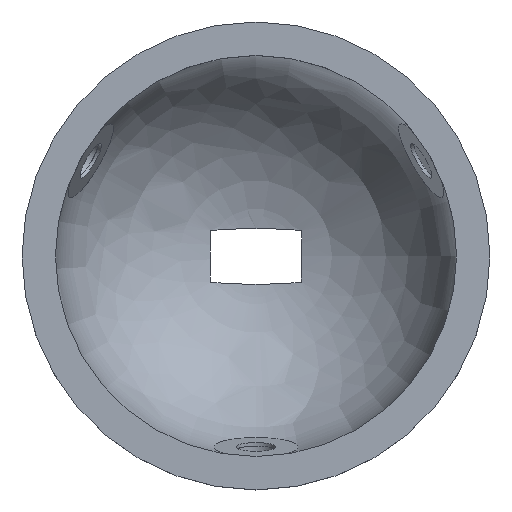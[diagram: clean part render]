
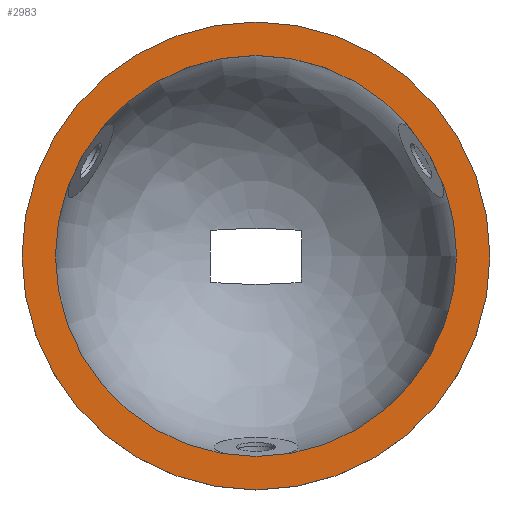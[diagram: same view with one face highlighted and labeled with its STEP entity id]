
A CAD part, top view. The second image highlights one B-rep face of the part: STEP entity #2983.
In plain terms, the highlighted planar face has unit normal (0, 0, 1).
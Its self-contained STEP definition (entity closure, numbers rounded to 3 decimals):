
#652 = CYLINDRICAL_SURFACE('',#653,18.);
#653 = AXIS2_PLACEMENT_3D('',#654,#655,#656);
#654 = CARTESIAN_POINT('',(0.,0.,-4.));
#655 = DIRECTION('',(0.,0.,1.));
#656 = DIRECTION('',(1.,0.,-0.));
#2230 = VERTEX_POINT('',#2231);
#2231 = CARTESIAN_POINT('',(18.,0.,0.));
#2252 = EDGE_CURVE('',#2230,#2230,#2253,.T.);
#2253 = SURFACE_CURVE('',#2254,(#2259,#2266),.PCURVE_S1.);
#2254 = CIRCLE('',#2255,18.);
#2255 = AXIS2_PLACEMENT_3D('',#2256,#2257,#2258);
#2256 = CARTESIAN_POINT('',(0.,0.,0.));
#2257 = DIRECTION('',(0.,0.,1.));
#2258 = DIRECTION('',(1.,0.,-0.));
#2259 = PCURVE('',#652,#2260);
#2260 = DEFINITIONAL_REPRESENTATION('',(#2261),#2265);
#2261 = LINE('',#2262,#2263);
#2262 = CARTESIAN_POINT('',(0.,4.));
#2263 = VECTOR('',#2264,1.);
#2264 = DIRECTION('',(1.,0.));
#2265 = ( GEOMETRIC_REPRESENTATION_CONTEXT(2) 
PARAMETRIC_REPRESENTATION_CONTEXT() REPRESENTATION_CONTEXT('2D SPACE',''
  ) );
#2266 = PCURVE('',#2267,#2272);
#2267 = PLANE('',#2268);
#2268 = AXIS2_PLACEMENT_3D('',#2269,#2270,#2271);
#2269 = CARTESIAN_POINT('',(0.,0.,0.));
#2270 = DIRECTION('',(0.,0.,1.));
#2271 = DIRECTION('',(1.,0.,-0.));
#2272 = DEFINITIONAL_REPRESENTATION('',(#2273),#2277);
#2273 = CIRCLE('',#2274,18.);
#2274 = AXIS2_PLACEMENT_2D('',#2275,#2276);
#2275 = CARTESIAN_POINT('',(0.,0.));
#2276 = DIRECTION('',(1.,-0.));
#2277 = ( GEOMETRIC_REPRESENTATION_CONTEXT(2) 
PARAMETRIC_REPRESENTATION_CONTEXT() REPRESENTATION_CONTEXT('2D SPACE',''
  ) );
#2983 = ADVANCED_FACE('',(#2984,#2987),#2267,.T.);
#2984 = FACE_BOUND('',#2985,.F.);
#2985 = EDGE_LOOP('',(#2986));
#2986 = ORIENTED_EDGE('',*,*,#2252,.T.);
#2987 = FACE_BOUND('',#2988,.F.);
#2988 = EDGE_LOOP('',(#2989));
#2989 = ORIENTED_EDGE('',*,*,#2990,.F.);
#2990 = EDGE_CURVE('',#2991,#2991,#2993,.T.);
#2991 = VERTEX_POINT('',#2992);
#2992 = CARTESIAN_POINT('',(21.,0.,0.));
#2993 = SURFACE_CURVE('',#2994,(#2999,#3006),.PCURVE_S1.);
#2994 = CIRCLE('',#2995,21.);
#2995 = AXIS2_PLACEMENT_3D('',#2996,#2997,#2998);
#2996 = CARTESIAN_POINT('',(0.,0.,0.));
#2997 = DIRECTION('',(0.,0.,1.));
#2998 = DIRECTION('',(1.,0.,-0.));
#2999 = PCURVE('',#2267,#3000);
#3000 = DEFINITIONAL_REPRESENTATION('',(#3001),#3005);
#3001 = CIRCLE('',#3002,21.);
#3002 = AXIS2_PLACEMENT_2D('',#3003,#3004);
#3003 = CARTESIAN_POINT('',(0.,0.));
#3004 = DIRECTION('',(1.,-0.));
#3005 = ( GEOMETRIC_REPRESENTATION_CONTEXT(2) 
PARAMETRIC_REPRESENTATION_CONTEXT() REPRESENTATION_CONTEXT('2D SPACE',''
  ) );
#3006 = PCURVE('',#3007,#3012);
#3007 = CYLINDRICAL_SURFACE('',#3008,21.);
#3008 = AXIS2_PLACEMENT_3D('',#3009,#3010,#3011);
#3009 = CARTESIAN_POINT('',(0.,0.,0.));
#3010 = DIRECTION('',(-0.,-0.,-1.));
#3011 = DIRECTION('',(1.,0.,0.));
#3012 = DEFINITIONAL_REPRESENTATION('',(#3013),#3017);
#3013 = LINE('',#3014,#3015);
#3014 = CARTESIAN_POINT('',(-0.,0.));
#3015 = VECTOR('',#3016,1.);
#3016 = DIRECTION('',(-1.,0.));
#3017 = ( GEOMETRIC_REPRESENTATION_CONTEXT(2) 
PARAMETRIC_REPRESENTATION_CONTEXT() REPRESENTATION_CONTEXT('2D SPACE',''
  ) );
